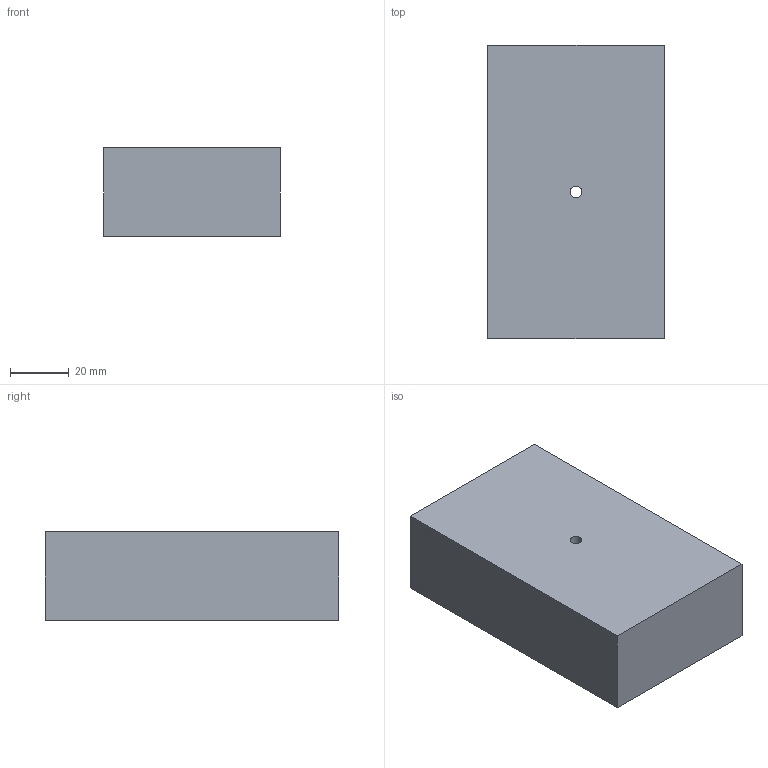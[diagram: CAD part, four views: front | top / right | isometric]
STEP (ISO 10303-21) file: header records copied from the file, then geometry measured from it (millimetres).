
FILE_DESCRIPTION(/* description */ (''),/* implementation_level */ '2;1');
FILE_NAME(/* name */ 'Mal deel 1.stp',/* time_stamp */ '2018-06-06T14:44:10+02:00',/* author */ (''),/* organization */ (''),/* preprocessor_version */ 'ST-DEVELOPER v16',/* originating_system */ 'SIEMENS PLM Software NX 11.0',/* authorisation */ '');
FILE_SCHEMA (('AUTOMOTIVE_DESIGN { 1 0 10303 214 3 1 1 1 }'));
Length unit declared in the file: millimetre
Products named in the file (1): Mal2 deel 1
Bounding box: 60 x 100 x 30 mm (x, y, z)
Volume: 136220.5 mm3; surface area: 26468 mm2
Topology: 1 solids, 1 shells, 50 faces, 126 edges, 77 vertices
Faces by surface type: bspline 16, cylinder 15, plane 15, torus 2, cone 2
Full cylindrical faces by diameter (mm): 4 x1
Entity records: 1750 total; most frequent: CARTESIAN_POINT 609, DIRECTION 236, ORIENTED_EDGE 232, EDGE_CURVE 116, AXIS2_PLACEMENT_3D 97, VERTEX_POINT 74, EDGE_LOOP 58, ADVANCED_FACE 50
